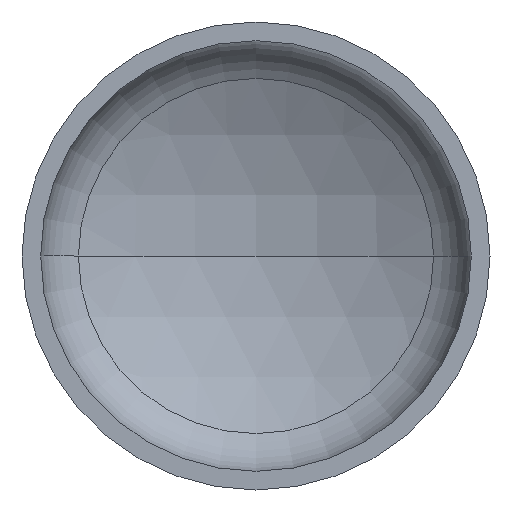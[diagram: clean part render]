
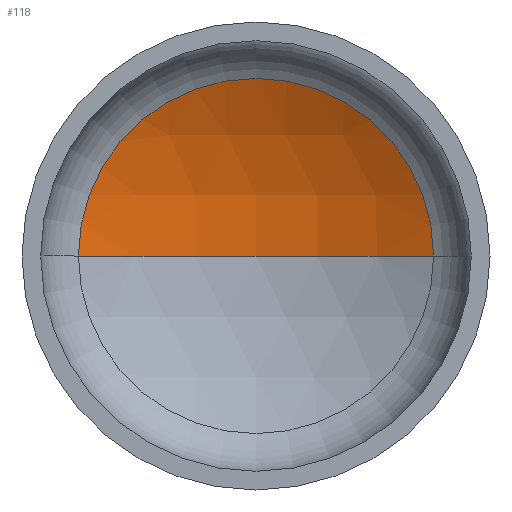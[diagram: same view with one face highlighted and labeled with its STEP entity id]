
A CAD part, front view. The second image highlights one B-rep face of the part: STEP entity #118.
In plain terms, the highlighted spherical face has radius 2400 mm.
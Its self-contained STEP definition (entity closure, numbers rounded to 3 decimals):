
#1 = CARTESIAN_POINT ( 'NONE',  ( -1138.144, 479.985, 0. ) ) ;
#2 = AXIS2_PLACEMENT_3D ( 'NONE', #330, #151, #360 ) ;
#15 = AXIS2_PLACEMENT_3D ( 'NONE', #350, #176, #276 ) ;
#16 = AXIS2_PLACEMENT_3D ( 'NONE', #111, #285, #116 ) ;
#29 = AXIS2_PLACEMENT_3D ( 'NONE', #173, #263, #164 ) ;
#61 = ORIENTED_EDGE ( 'NONE', *, *, #317, .T. ) ;
#111 = CARTESIAN_POINT ( 'NONE',  ( 0., 479.985, 0. ) ) ;
#116 = DIRECTION ( 'NONE',  ( 1., 0., 0. ) ) ;
#118 = ADVANCED_FACE ( 'NONE', ( #218 ), #147, .F. ) ;
#147 = SPHERICAL_SURFACE ( 'NONE', #29, 2400. ) ;
#151 = DIRECTION ( 'NONE',  ( 0., 0., 1. ) ) ;
#154 = ORIENTED_EDGE ( 'NONE', *, *, #383, .F. ) ;
#164 = DIRECTION ( 'NONE',  ( -1., 0., 0. ) ) ;
#168 = VERTEX_POINT ( 'NONE', #1 ) ;
#173 = CARTESIAN_POINT ( 'NONE',  ( 0., -1632.981, 0. ) ) ;
#174 = CIRCLE ( 'NONE', #2, 2400. ) ;
#176 = DIRECTION ( 'NONE',  ( 0., 0., -1. ) ) ;
#177 = CARTESIAN_POINT ( 'NONE',  ( 1138.144, 479.985, 0. ) ) ;
#206 = VERTEX_POINT ( 'NONE', #177 ) ;
#218 = FACE_OUTER_BOUND ( 'NONE', #268, .T. ) ;
#244 = CARTESIAN_POINT ( 'NONE',  ( 0., 767.019, 0. ) ) ;
#255 = CIRCLE ( 'NONE', #16, 1138.144 ) ;
#263 = DIRECTION ( 'NONE',  ( 0., 0., -1. ) ) ;
#268 = EDGE_LOOP ( 'NONE', ( #154, #346, #61 ) ) ;
#276 = DIRECTION ( 'NONE',  ( -1., 0., 0. ) ) ;
#285 = DIRECTION ( 'NONE',  ( 0., -1., 0. ) ) ;
#295 = VERTEX_POINT ( 'NONE', #244 ) ;
#317 = EDGE_CURVE ( 'NONE', #206, #168, #255, .T. ) ;
#329 = EDGE_CURVE ( 'NONE', #295, #206, #406, .T. ) ;
#330 = CARTESIAN_POINT ( 'NONE',  ( 0., -1632.981, 0. ) ) ;
#346 = ORIENTED_EDGE ( 'NONE', *, *, #329, .T. ) ;
#350 = CARTESIAN_POINT ( 'NONE',  ( 0., -1632.981, 0. ) ) ;
#360 = DIRECTION ( 'NONE',  ( 1., 0., 0. ) ) ;
#383 = EDGE_CURVE ( 'NONE', #295, #168, #174, .T. ) ;
#406 = CIRCLE ( 'NONE', #15, 2400. ) ;
